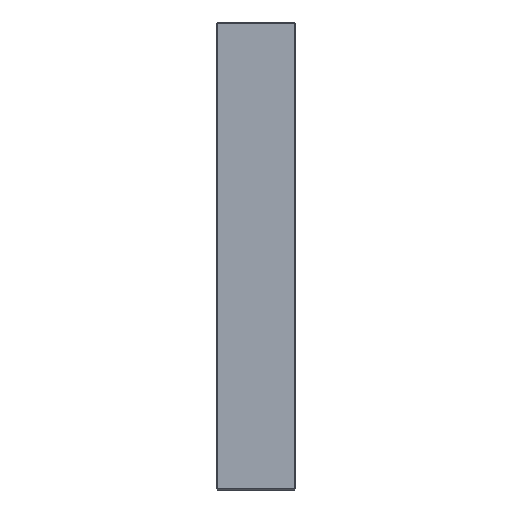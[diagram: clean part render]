
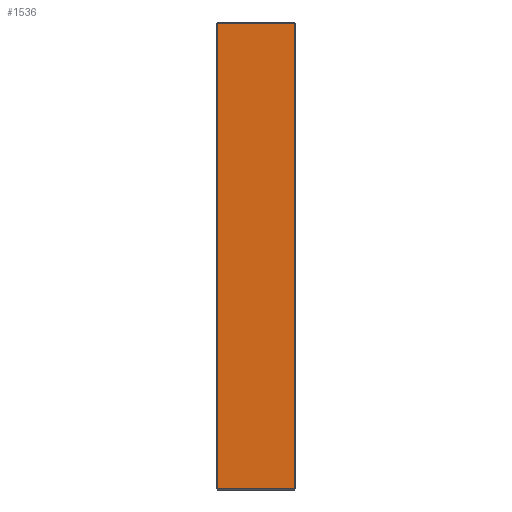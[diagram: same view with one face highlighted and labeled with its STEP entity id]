
A CAD part, left-side view. The second image highlights one B-rep face of the part: STEP entity #1536.
In plain terms, the highlighted planar face has unit normal (-1, 0, 0).
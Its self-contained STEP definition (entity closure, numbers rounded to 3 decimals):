
#7 = LINE ( 'NONE', #764, #1092 ) ;
#63 = VERTEX_POINT ( 'NONE', #1508 ) ;
#138 = ORIENTED_EDGE ( 'NONE', *, *, #430, .T. ) ;
#245 = EDGE_CURVE ( 'NONE', #1742, #63, #1735, .T. ) ;
#370 = DIRECTION ( 'NONE',  ( 0., 0., -1. ) ) ;
#410 = DIRECTION ( 'NONE',  ( 1., 0., 0. ) ) ;
#430 = EDGE_CURVE ( 'NONE', #63, #1753, #1266, .T. ) ;
#595 = CARTESIAN_POINT ( 'NONE',  ( -223., 76., 223. ) ) ;
#620 = VECTOR ( 'NONE', #1757, 1000. ) ;
#668 = VECTOR ( 'NONE', #1537, 1000. ) ;
#672 = ORIENTED_EDGE ( 'NONE', *, *, #2095, .T. ) ;
#701 = CARTESIAN_POINT ( 'NONE',  ( -223., 1., -222. ) ) ;
#764 = CARTESIAN_POINT ( 'NONE',  ( -223., 76., 222. ) ) ;
#1008 = DIRECTION ( 'NONE',  ( 0., -1., 0. ) ) ;
#1030 = CARTESIAN_POINT ( 'NONE',  ( -223., 76., -222. ) ) ;
#1092 = VECTOR ( 'NONE', #2195, 1000. ) ;
#1199 = VERTEX_POINT ( 'NONE', #1810 ) ;
#1266 = LINE ( 'NONE', #1030, #1447 ) ;
#1329 = EDGE_LOOP ( 'NONE', ( #672, #2287, #138, #2341 ) ) ;
#1335 = CARTESIAN_POINT ( 'NONE',  ( -223., 1., 223. ) ) ;
#1364 = PLANE ( 'NONE',  #1612 ) ;
#1447 = VECTOR ( 'NONE', #1008, 1000. ) ;
#1451 = FACE_OUTER_BOUND ( 'NONE', #1329, .T. ) ;
#1508 = CARTESIAN_POINT ( 'NONE',  ( -223., 75., -222. ) ) ;
#1536 = ADVANCED_FACE ( 'NONE', ( #1451 ), #1364, .F. ) ;
#1537 = DIRECTION ( 'NONE',  ( 0., 0., -1. ) ) ;
#1543 = CARTESIAN_POINT ( 'NONE',  ( -223., 75., 223. ) ) ;
#1612 = AXIS2_PLACEMENT_3D ( 'NONE', #595, #410, #370 ) ;
#1689 = CARTESIAN_POINT ( 'NONE',  ( -223., 75., 222. ) ) ;
#1735 = LINE ( 'NONE', #1543, #668 ) ;
#1742 = VERTEX_POINT ( 'NONE', #1689 ) ;
#1753 = VERTEX_POINT ( 'NONE', #701 ) ;
#1757 = DIRECTION ( 'NONE',  ( 0., 0., 1. ) ) ;
#1762 = LINE ( 'NONE', #1335, #620 ) ;
#1810 = CARTESIAN_POINT ( 'NONE',  ( -223., 1., 222. ) ) ;
#2062 = EDGE_CURVE ( 'NONE', #1753, #1199, #1762, .T. ) ;
#2095 = EDGE_CURVE ( 'NONE', #1199, #1742, #7, .T. ) ;
#2195 = DIRECTION ( 'NONE',  ( 0., 1., 0. ) ) ;
#2287 = ORIENTED_EDGE ( 'NONE', *, *, #245, .T. ) ;
#2341 = ORIENTED_EDGE ( 'NONE', *, *, #2062, .T. ) ;
